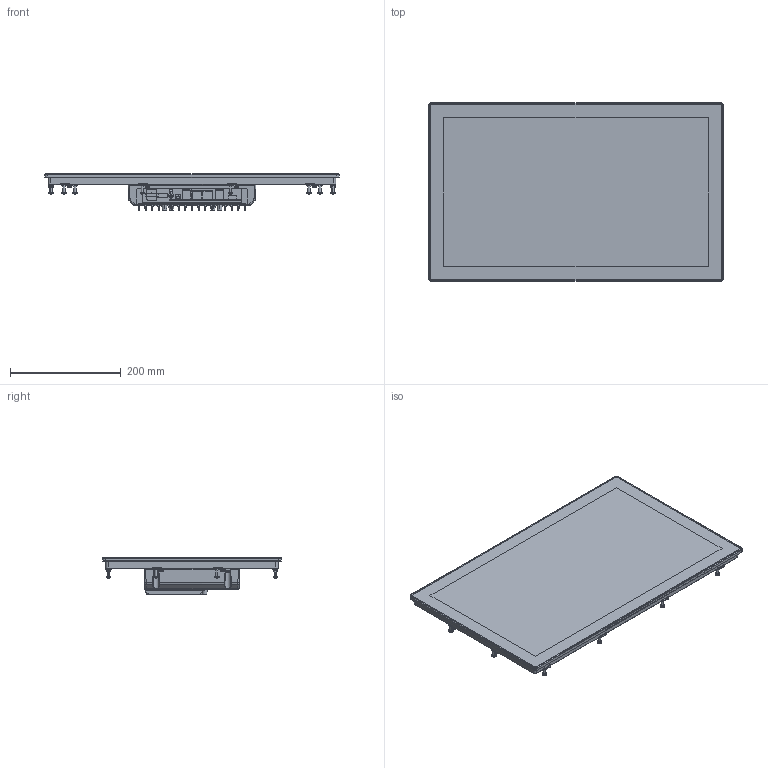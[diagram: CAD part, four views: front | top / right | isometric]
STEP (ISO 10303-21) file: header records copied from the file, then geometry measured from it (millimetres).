
FILE_DESCRIPTION (( 'STEP AP214' ), '1' );
FILE_NAME ('ET2120 (01-235-2120) Export20260312.STEP', '2026-03-12T13:46:05', ( '' ), ( '' ), 'SwSTEP 2.0', 'SolidWorks 2024', '' );
FILE_SCHEMA (( 'AUTOMOTIVE_DESIGN' ));
Length unit declared in the file: millimetre
Products named in the file (1): ET2120 (01-235-2120) Export20260312
Bounding box: 532.09 x 323.56 x 65.8 mm (x, y, z)
Volume: 4329937.3 mm3; surface area: 958492.9 mm2
Topology: 60 solids, 60 shells, 2428 faces, 5631 edges, 3270 vertices
Faces by surface type: cylinder 799, plane 624, bspline 354, cone 320, torus 295, sphere 36
Entity records: 113018 total; most frequent: CARTESIAN_POINT 33971, ORIENTED_EDGE 11026, DIRECTION 10943, EDGE_CURVE 5513, AXIS2_PLACEMENT_3D 4291, VERTEX_POINT 3270, EDGE_LOOP 2597, UNCERTAINTY_MEASURE_WITH_UNIT 2429
